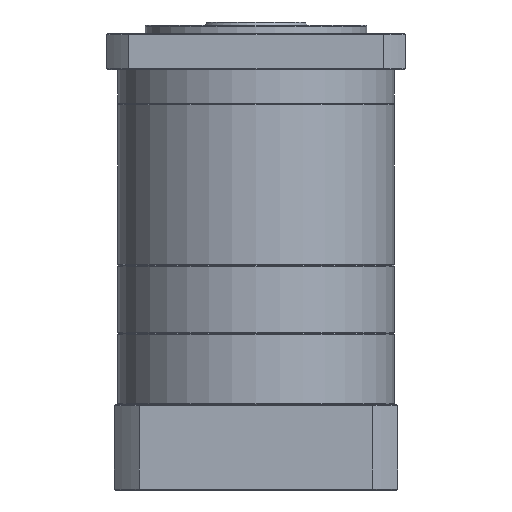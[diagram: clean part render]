
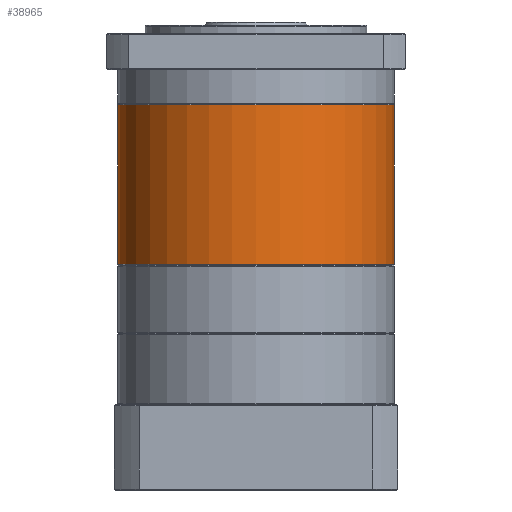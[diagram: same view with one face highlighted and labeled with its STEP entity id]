
A CAD part, front view. The second image highlights one B-rep face of the part: STEP entity #38965.
In plain terms, the highlighted cylindrical face has radius 81 mm (diameter 162 mm), a partial arc.
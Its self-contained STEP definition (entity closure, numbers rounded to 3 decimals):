
#4057 = CARTESIAN_POINT ( 'NONE',  ( 105.54, 60.524, 49.155 ) ) ;
#9609 = CARTESIAN_POINT ( 'NONE',  ( 186.54, 60.524, 48.655 ) ) ;
#10227 = EDGE_CURVE ( 'NONE', #51086, #21610, #38872, .T. ) ;
#11717 = EDGE_LOOP ( 'NONE', ( #66380, #49257, #46853, #21673 ) ) ;
#19224 = AXIS2_PLACEMENT_3D ( 'NONE', #40581, #26786, #54976 ) ;
#21610 = VERTEX_POINT ( 'NONE', #76608 ) ;
#21673 = ORIENTED_EDGE ( 'NONE', *, *, #66093, .T. ) ;
#24551 = VERTEX_POINT ( 'NONE', #30697 ) ;
#25658 = DIRECTION ( 'NONE',  ( 0., 0., 1. ) ) ;
#26786 = DIRECTION ( 'NONE',  ( 0., 0., -1. ) ) ;
#30697 = CARTESIAN_POINT ( 'NONE',  ( 267.54, 60.524, 49.155 ) ) ;
#34867 = EDGE_CURVE ( 'NONE', #51086, #24551, #51260, .T. ) ;
#38872 = LINE ( 'NONE', #39043, #48971 ) ;
#38965 = ADVANCED_FACE ( 'NONE', ( #86551 ), #39178, .T. ) ;
#39043 = CARTESIAN_POINT ( 'NONE',  ( 105.54, 60.524, 48.655 ) ) ;
#39178 = CYLINDRICAL_SURFACE ( 'NONE', #58056, 81. ) ;
#40433 = VERTEX_POINT ( 'NONE', #65555 ) ;
#40581 = CARTESIAN_POINT ( 'NONE',  ( 186.54, 60.524, 142.655 ) ) ;
#43328 = CARTESIAN_POINT ( 'NONE',  ( 186.54, 60.524, 49.155 ) ) ;
#46853 = ORIENTED_EDGE ( 'NONE', *, *, #87039, .T. ) ;
#48971 = VECTOR ( 'NONE', #75851, 1000. ) ;
#49257 = ORIENTED_EDGE ( 'NONE', *, *, #34867, .T. ) ;
#50818 = DIRECTION ( 'NONE',  ( 1., 0., 0. ) ) ;
#51086 = VERTEX_POINT ( 'NONE', #4057 ) ;
#51260 = CIRCLE ( 'NONE', #63029, 81. ) ;
#51359 = CARTESIAN_POINT ( 'NONE',  ( 267.54, 60.524, 48.655 ) ) ;
#52012 = DIRECTION ( 'NONE',  ( 0., 0., 1. ) ) ;
#54976 = DIRECTION ( 'NONE',  ( 1., 0., 0. ) ) ;
#55353 = DIRECTION ( 'NONE',  ( 1., 0., 0. ) ) ;
#58056 = AXIS2_PLACEMENT_3D ( 'NONE', #9609, #25658, #55353 ) ;
#63029 = AXIS2_PLACEMENT_3D ( 'NONE', #43328, #79478, #50818 ) ;
#65555 = CARTESIAN_POINT ( 'NONE',  ( 267.54, 60.524, 142.655 ) ) ;
#66093 = EDGE_CURVE ( 'NONE', #40433, #21610, #66842, .T. ) ;
#66380 = ORIENTED_EDGE ( 'NONE', *, *, #10227, .F. ) ;
#66842 = CIRCLE ( 'NONE', #19224, 81. ) ;
#73393 = LINE ( 'NONE', #51359, #75704 ) ;
#75704 = VECTOR ( 'NONE', #52012, 1000. ) ;
#75851 = DIRECTION ( 'NONE',  ( 0., 0., 1. ) ) ;
#76608 = CARTESIAN_POINT ( 'NONE',  ( 105.54, 60.524, 142.655 ) ) ;
#79478 = DIRECTION ( 'NONE',  ( 0., 0., 1. ) ) ;
#86551 = FACE_OUTER_BOUND ( 'NONE', #11717, .T. ) ;
#87039 = EDGE_CURVE ( 'NONE', #24551, #40433, #73393, .T. ) ;
